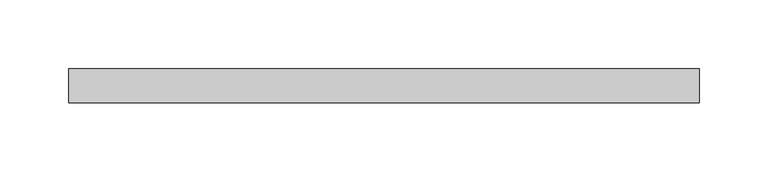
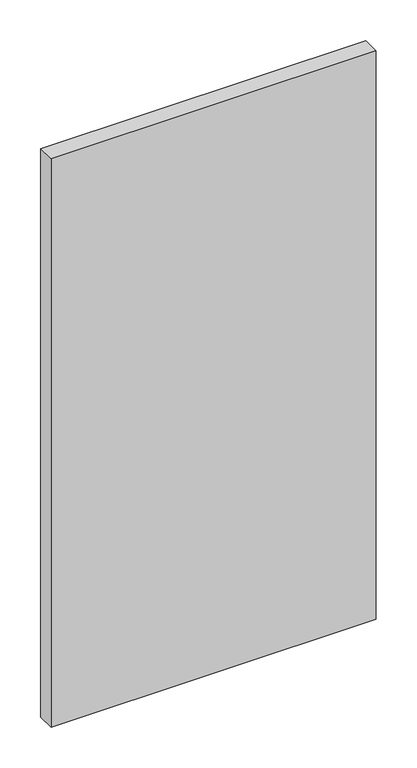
"""IFC4 building model written with IfcOpenShell, lengths in millimetres: plate geometry, Системная панель : ADSK_Cтеклопакет_25."""

from ifc_helpers import new_model, si_unit, origin, origin_with_axes, place, context, project, spatial, polyline, outline, extrude, source, transform, mapped, element, save


def plate_a43562b1(model_context):
    return source(origin(), model_context, "Body", "SweptSolid", [
        extrude(outline(polyline([(230.0, -12.5), (-230.0, -12.5), (-230.0, 12.5), (230.0, 12.5), (230.0, -12.5)])), origin_with_axes(), (0.0, 0.0, 1.0), 850.0),
    ])


if __name__ == "__main__":
    model = new_model("IFC4")
    model_context = context("Model", 3, world=origin())
    ifc_project = project(units=[si_unit("LENGTHUNIT", "METRE", prefix="MILLI")], contexts=[model_context])
    site = spatial("IfcSite", under=ifc_project)
    building = spatial("IfcBuilding", under=site)
    placement = place(None, origin())
    plate_shape = plate_a43562b1(model_context)
    element("IfcPlate", 1, ObjectType="Системная панель : ADSK_Cтеклопакет_25", at=placement, inside=building, context=model_context, shape_type="MappedRepresentation", body=[
        mapped(plate_shape, transform((0.0, 0.0, 0.0), x_axis=(1.0, 0.0, 0.0), y_axis=(0.0, 1.0, 0.0), z_axis=(0.0, 0.0, 1.0))),
    ])
    save(model, "model.ifc")
